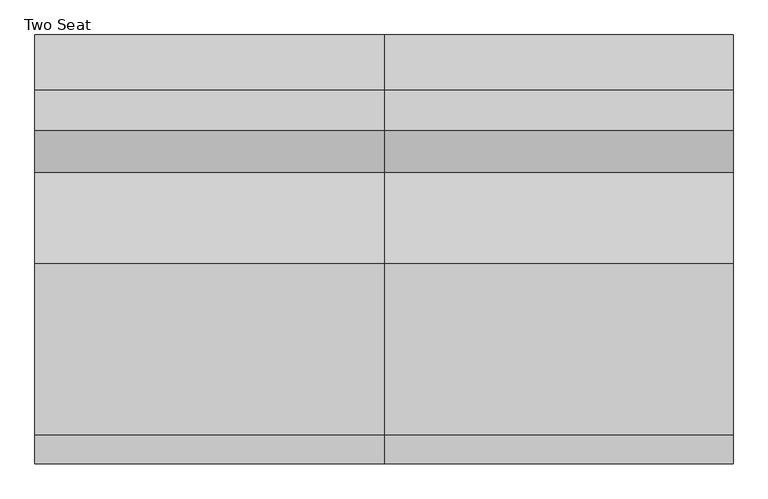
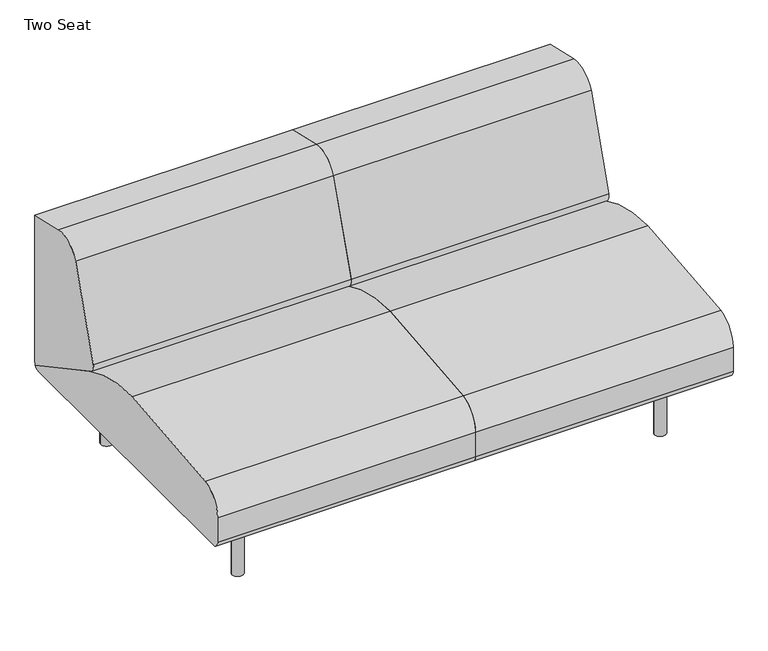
"""IFC4 building model written with IfcOpenShell, lengths in millimetres: furniture geometry, Coalesse_AM_Seating_LoungeChair_Sistema_LegBase_TwoSeat : Two Seat."""

import ifcopenshell
import ifcopenshell.guid

model = None  # the IFC model being written
_history = None  # IfcOwnerHistory: only IFC2X3 demands one
_inside = {}  # id of a spatial element -> (the spatial element, [elements in it])
_under = {}  # id of a project, library or spatial element -> (it, [spatial elements below it])
_declared = {}  # id of a project -> (the project, [libraries it declares])
_typed = {}  # id of a type object -> (the type object, [elements of that type])
_made_of = {}  # id of a material, layer set ... -> (it, [elements and type objects made of it])


def new_model(schema):
    """Start an empty IFC model of exactly this schema.

    Asked for "IFC4X3", IfcOpenShell would pick the latest addendum, in which some entities
    have other attributes; the version numbers below select the first issue.
    IFC2X3 requires an IfcOwnerHistory on every rooted entity: one is made here for all.
    """
    global model, _history
    if schema == "IFC4X3":
        model = ifcopenshell.file(schema_version=(4, 3, 0, 0))
    else:
        model = ifcopenshell.file(schema=schema)
    _inside.clear()
    _under.clear()
    _declared.clear()
    _typed.clear()
    _made_of.clear()
    _history = None
    if model.schema == "IFC2X3":
        org = make("IfcOrganization", Name="unknown")
        user = make(
            "IfcPersonAndOrganization",
            ThePerson=make("IfcPerson", FamilyName="unknown"),
            TheOrganization=org,
        )
        app = make(
            "IfcApplication",
            ApplicationDeveloper=org,
            Version="unknown",
            ApplicationFullName="unknown",
            ApplicationIdentifier="unknown",
        )
        _history = make(
            "IfcOwnerHistory",
            OwningUser=user,
            OwningApplication=app,
            ChangeAction="ADDED",
            CreationDate=0,
        )
    return model


def make(cls, **values):
    """One entity of the class cls with the attributes given. An attribute that is None is left unset."""
    return model.create_entity(
        cls, **{name: value for name, value in values.items() if value is not None}
    )


def rooted(cls, **values):
    """An entity with a GlobalId (a new one), such as an element, a storey or a relation."""
    return make(cls, GlobalId=ifcopenshell.guid.new(), OwnerHistory=_history, **values)


def si_unit(unit_type, name, prefix=None):
    """IfcSIUnit, for example si_unit("LENGTHUNIT", "METRE", prefix="MILLI")."""
    return make("IfcSIUnit", UnitType=unit_type, Prefix=prefix, Name=name)


def assignment(units):
    """IfcUnitAssignment: the units of a project."""
    return None if units is None else make("IfcUnitAssignment", Units=units)


def point(xyz):
    """IfcCartesianPoint."""
    return None if xyz is None else make("IfcCartesianPoint", Coordinates=xyz)


def direction(xyz):
    """IfcDirection."""
    return None if xyz is None else make("IfcDirection", DirectionRatios=xyz)


def frame(location, z_axis=None, x_axis=None):
    """IfcAxis2Placement3D, a coordinate frame: its origin and axes. An axis left out is left unset."""
    return make(
        "IfcAxis2Placement3D",
        Location=point(location),
        Axis=direction(z_axis),
        RefDirection=direction(x_axis),
    )


def frame_2d(location, x_axis=None):
    """IfcAxis2Placement2D, a coordinate frame in the plane: its origin and x axis."""
    return make(
        "IfcAxis2Placement2D", Location=point(location), RefDirection=direction(x_axis)
    )


def origin():
    """The frame at (0, 0, 0) with its axes left unset."""
    return frame((0.0, 0.0, 0.0))


def origin_with_axes():
    """The frame at (0, 0, 0) with the z axis (0, 0, 1) and the x axis (1, 0, 0) written out."""
    return frame((0.0, 0.0, 0.0), z_axis=(0.0, 0.0, 1.0), x_axis=(1.0, 0.0, 0.0))


def place(relative_to, where):
    """IfcLocalPlacement: puts the frame where relative to a parent placement (None: the world)."""
    return make(
        "IfcLocalPlacement", PlacementRelTo=relative_to, RelativePlacement=where
    )


def context(
    kind, dimensions, precision=None, world=None, true_north=None, identifier=None
):
    """IfcGeometricRepresentationContext, for example the 3D "Model" context."""
    return make(
        "IfcGeometricRepresentationContext",
        ContextIdentifier=identifier,
        ContextType=kind,
        CoordinateSpaceDimension=dimensions,
        Precision=precision,
        WorldCoordinateSystem=world,
        TrueNorth=true_north,
    )


def project(units=None, contexts=None):
    """IfcProject with its units and contexts."""
    return rooted(
        "IfcProject",
        Name="project",
        RepresentationContexts=contexts,
        UnitsInContext=assignment(units),
    )


def spatial(cls, under=None, at=None, **own):
    """A site, building, storey or space (cls), placed at a placement, below another one or the project."""
    s = rooted(cls, ObjectPlacement=at, **own)
    if under is not None:
        _under.setdefault(under.id(), (under, []))[1].append(s)
    return s


def polyline(points):
    """IfcPolyline through the points."""
    return make("IfcPolyline", Points=[point(p) for p in points])


def circle_curve(where, radius):
    """IfcCircle in the frame where."""
    return make("IfcCircle", Position=where, Radius=radius)


def trimmed(basis, trim1, trim2, sense, master):
    """IfcTrimmedCurve: the piece of a basis curve between two trims."""
    return make(
        "IfcTrimmedCurve",
        BasisCurve=basis,
        Trim1=trim1,
        Trim2=trim2,
        SenseAgreement=sense,
        MasterRepresentation=master,
    )


def segment(curve, same_sense, transition):
    """IfcCompositeCurveSegment."""
    return make(
        "IfcCompositeCurveSegment",
        Transition=transition,
        SameSense=same_sense,
        ParentCurve=curve,
    )


def composite_curve(segments, self_intersect=None):
    """IfcCompositeCurve: segments joined end to end."""
    return make("IfcCompositeCurve", Segments=segments, SelfIntersect=self_intersect)


def outline(outer, holes=None, kind="AREA"):
    """IfcArbitraryClosedProfileDef: a profile drawn as a closed curve; with holes, ...WithVoids."""
    if holes is None:
        return make("IfcArbitraryClosedProfileDef", ProfileType=kind, OuterCurve=outer)
    return make(
        "IfcArbitraryProfileDefWithVoids",
        ProfileType=kind,
        OuterCurve=outer,
        InnerCurves=holes,
    )


def extrude(swept, where, along, depth):
    """IfcExtrudedAreaSolid: the profile swept, set in the frame where, extruded along a direction by depth."""
    return make(
        "IfcExtrudedAreaSolid",
        SweptArea=swept,
        Position=where,
        ExtrudedDirection=direction(along),
        Depth=depth,
    )


def shape(context_of_items, identifier, shape_type, items):
    """IfcShapeRepresentation: the items that make up one representation, for example the "Body"."""
    return make(
        "IfcShapeRepresentation",
        ContextOfItems=context_of_items,
        RepresentationIdentifier=identifier,
        RepresentationType=shape_type,
        Items=items,
    )


def source(mapping_origin, context_of_items, identifier, shape_type, items):
    """IfcRepresentationMap: a shape defined once, which mapped items show again and again."""
    return make(
        "IfcRepresentationMap",
        MappingOrigin=mapping_origin,
        MappedRepresentation=shape(context_of_items, identifier, shape_type, items),
    )


def transform(
    local_origin,
    x_axis=None,
    y_axis=None,
    z_axis=None,
    scale=None,
    scale2=None,
    scale3=None,
    uniform=True,
):
    """IfcCartesianTransformationOperator3D, or its non-uniform kind. x_axis, y_axis, z_axis: its Axis1, 2, 3."""
    if uniform:
        return make(
            "IfcCartesianTransformationOperator3D",
            Axis1=direction(x_axis),
            Axis2=direction(y_axis),
            LocalOrigin=point(local_origin),
            Scale=scale,
            Axis3=direction(z_axis),
        )
    return make(
        "IfcCartesianTransformationOperator3DnonUniform",
        Axis1=direction(x_axis),
        Axis2=direction(y_axis),
        LocalOrigin=point(local_origin),
        Scale=scale,
        Axis3=direction(z_axis),
        Scale2=scale2,
        Scale3=scale3,
    )


def mapped(mapping_source, mapping_target):
    """IfcMappedItem: shows the shape of a source again, moved by a transform."""
    return make(
        "IfcMappedItem", MappingSource=mapping_source, MappingTarget=mapping_target
    )


def made_of(thing, what):
    """Note that an element or type object is made of a material, layer set ...; save() writes the relation."""
    if what is not None:
        _made_of.setdefault(what.id(), (what, []))[1].append(thing)
    return thing


def element(
    cls,
    number,
    at=None,
    inside=None,
    cuts=None,
    type_object=None,
    material=None,
    context=None,
    identifier="Body",
    shape_type=None,
    held_by="IfcProductDefinitionShape",
    body=None,
    shapes=None,
    **own,
):
    """One element of the class cls, such as IfcWall. Its Tag is "e" and its number.

    at: its placement. inside: the storey or other place that contains it. cuts: it is an
    opening in that element (IfcRelVoidsElement). A single representation is given by context,
    identifier, shape_type and body (its items); several are given by shapes. held_by: the class
    of the entity that holds the representations. save() writes the other relations.
    """
    e = rooted(cls, Tag="e%d" % number, ObjectPlacement=at, **own)
    if body is not None:
        shapes = [shape(context, identifier, shape_type, body)]
    if shapes is not None:
        e.Representation = make(held_by, Representations=shapes)
    if inside is not None:
        _inside.setdefault(inside.id(), (inside, []))[1].append(e)
    if cuts is not None:
        rooted(
            "IfcRelVoidsElement", RelatingBuildingElement=cuts, RelatedOpeningElement=e
        )
    if type_object is not None:
        _typed.setdefault(type_object.id(), (type_object, []))[1].append(e)
    return made_of(e, material)


def aggregate(whole, parts):
    """IfcRelAggregates: a whole, such as a stair, and the parts it consists of."""
    return rooted("IfcRelAggregates", RelatingObject=whole, RelatedObjects=parts)


def save(model, path):
    """Write the relations noted so far, then the file.

    IfcRelAggregates (storeys below a building ...), IfcRelContainedInSpatialStructure (elements
    in a storey), IfcRelDefinesByType, IfcRelAssociatesMaterial and IfcRelDeclares: one each for
    every whole, place, type object, material and project.
    """
    for whole, parts in _under.values():
        aggregate(whole, parts)
    for where, things in _inside.values():
        rooted(
            "IfcRelContainedInSpatialStructure",
            RelatedElements=things,
            RelatingStructure=where,
        )
    for kind, things in _typed.values():
        rooted("IfcRelDefinesByType", RelatedObjects=things, RelatingType=kind)
    for what, things in _made_of.values():
        rooted("IfcRelAssociatesMaterial", RelatedObjects=things, RelatingMaterial=what)
    for by, libraries in _declared.values():
        rooted("IfcRelDeclares", RelatingContext=by, RelatedDefinitions=libraries)
    model.write(path)


def two_seat_c4276306(model_context):
    return source(origin(), model_context, "Body", "SweptSolid", [
        extrude(outline(composite_curve([segment(trimmed(circle_curve(frame_2d((989.1765227, 335.9943389)), 6.096), [point((995.2725227, 335.9943389))], [point((983.0805227, 335.9943389))], False, "CARTESIAN"), True, "CONTINUOUS"), segment(trimmed(circle_curve(frame_2d((989.1765227, 335.9943389)), 6.096), [point((983.0805227, 335.9943389))], [point((995.2725227, 335.9943389))], False, "CARTESIAN"), True, "CONTINUOUS")], self_intersect=False)), origin_with_axes(), (0.0, 0.0, 1.0), 4.3662291),
        extrude(outline(composite_curve([segment(trimmed(circle_curve(frame_2d((989.1765227, -327.2630889)), 6.096), [point((995.2725227, -327.2630889))], [point((983.0805227, -327.2630889))], False, "CARTESIAN"), True, "CONTINUOUS"), segment(trimmed(circle_curve(frame_2d((989.1765227, -327.2630889)), 6.096), [point((983.0805227, -327.2630889))], [point((995.2725227, -327.2630889))], False, "CARTESIAN"), True, "CONTINUOUS")], self_intersect=False)), origin_with_axes(), (0.0, 0.0, 1.0), 4.3662291),
        extrude(outline(composite_curve([segment(polyline([(157.0399209, 1001.756375), (201.7356243, 1001.756375)]), True, "CONTINUOUS"), segment(trimmed(circle_curve(frame_2d((201.7356243, 998.708375)), 3.048), [point((201.7356243, 1001.756375))], [point((204.7836243, 998.708375))], False, "CARTESIAN"), True, "CONTINUOUS"), segment(polyline([(204.7836243, 998.708375), (204.7836243, 979.366199)]), True, "CONTINUOUS"), segment(trimmed(circle_curve(frame_2d((201.7356243, 979.366199)), 3.048), [point((204.7836243, 979.366199))], [point((201.7356243, 976.318199))], False, "CARTESIAN"), True, "CONTINUOUS"), segment(polyline([(201.7356243, 976.318199), (157.1249936, 976.318199)]), True, "CONTINUOUS"), segment(trimmed(circle_curve(frame_2d((157.1249936, 979.4512718)), 3.1330728), [point((157.1249936, 976.318199))], [point((153.9919209, 979.4512718))], False, "CARTESIAN"), True, "CONTINUOUS"), segment(polyline([(153.9919209, 979.4512718), (153.9919209, 998.708375)]), True, "CONTINUOUS"), segment(trimmed(circle_curve(frame_2d((157.0399209, 998.708375)), 3.048), [point((153.9919209, 998.708375))], [point((157.0399209, 1001.756375))], False, "CARTESIAN"), True, "CONTINUOUS")], self_intersect=False)), frame((0.0, 222.3519802, 0.0), z_axis=(0.0, 1.0, 0.0), x_axis=(0.0, 0.0, 1.0)), (0.0, 0.0, 1.0), 92.6273161),
        extrude(outline(composite_curve([segment(polyline([(157.0399209, 1001.756375), (201.7356243, 1001.756375)]), True, "CONTINUOUS"), segment(trimmed(circle_curve(frame_2d((201.7356243, 998.708375)), 3.048), [point((201.7356243, 1001.756375))], [point((204.7836243, 998.708375))], False, "CARTESIAN"), True, "CONTINUOUS"), segment(polyline([(204.7836243, 998.708375), (204.7836243, 979.366199)]), True, "CONTINUOUS"), segment(trimmed(circle_curve(frame_2d((201.7356243, 979.366199)), 3.048), [point((204.7836243, 979.366199))], [point((201.7356243, 976.318199))], False, "CARTESIAN"), True, "CONTINUOUS"), segment(polyline([(201.7356243, 976.318199), (157.1249936, 976.318199)]), True, "CONTINUOUS"), segment(trimmed(circle_curve(frame_2d((157.1249936, 979.4512718)), 3.1330728), [point((157.1249936, 976.318199))], [point((153.9919209, 979.4512718))], False, "CARTESIAN"), True, "CONTINUOUS"), segment(polyline([(153.9919209, 979.4512718), (153.9919209, 998.708375)]), True, "CONTINUOUS"), segment(trimmed(circle_curve(frame_2d((157.0399209, 998.708375)), 3.048), [point((153.9919209, 998.708375))], [point((157.0399209, 1001.756375))], False, "CARTESIAN"), True, "CONTINUOUS")], self_intersect=False)), frame((0.0, -314.9792963, 0.0), z_axis=(0.0, 1.0, 0.0), x_axis=(0.0, 0.0, 1.0)), (0.0, 0.0, 1.0), 92.6273161),
        extrude(outline(composite_curve([segment(trimmed(circle_curve(frame_2d((176.3356606, 966.5259944)), 3.048), [point((179.3836606, 966.5259944))], [point((176.3356606, 963.4779944))], False, "CARTESIAN"), True, "CONTINUOUS"), segment(polyline([(176.3356606, 963.4779944), (157.0399209, 963.4779944)]), True, "CONTINUOUS"), segment(trimmed(circle_curve(frame_2d((157.0399209, 966.5259944)), 3.048), [point((157.0399209, 963.4779944))], [point((153.9919209, 966.5259944))], False, "CARTESIAN"), True, "CONTINUOUS"), segment(polyline([(153.9919209, 966.5259944), (153.9919209, 1011.2135501)]), True, "CONTINUOUS"), segment(trimmed(circle_curve(frame_2d((157.056462, 1011.2135501)), 3.0645412), [point((153.9919209, 1011.2135501))], [point((157.056462, 1014.2780913))], False, "CARTESIAN"), True, "CONTINUOUS"), segment(polyline([(157.056462, 1014.2780913), (176.3356606, 1014.2780913)]), True, "CONTINUOUS"), segment(trimmed(circle_curve(frame_2d((176.3356606, 1011.2300913)), 3.048), [point((176.3356606, 1014.2780913))], [point((179.3836606, 1011.2300913))], False, "CARTESIAN"), True, "CONTINUOUS"), segment(polyline([(179.3836606, 1011.2300913), (179.3836606, 966.5259944)]), True, "CONTINUOUS")], self_intersect=False)), frame((0.0, -222.3519802, 0.0), z_axis=(0.0, 1.0, 0.0), x_axis=(0.0, 0.0, 1.0)), (0.0, 0.0, 1.0), 444.7039604),
        extrude(outline(composite_curve([segment(trimmed(circle_curve(frame_2d((989.1765227, 332.3095741)), 16.51), [point((1005.6865227, 332.3095741))], [point((972.6665227, 332.3095741))], False, "CARTESIAN"), True, "CONTINUOUS"), segment(trimmed(circle_curve(frame_2d((989.1765227, 332.3095741)), 16.51), [point((972.6665227, 332.3095741))], [point((1005.6865227, 332.3095741))], False, "CARTESIAN"), True, "CONTINUOUS")], self_intersect=False)), frame((0.0, 0.0, 4.3662291), z_axis=(0.0, 0.0, 1.0), x_axis=(1.0, 0.0, 0.0)), (0.0, 0.0, 1.0), 200.1037709),
        extrude(outline(composite_curve([segment(trimmed(circle_curve(frame_2d((988.7796477, -327.5470741)), 16.51), [point((1005.2896477, -327.5470741))], [point((972.2696477, -327.5470741))], False, "CARTESIAN"), True, "CONTINUOUS"), segment(trimmed(circle_curve(frame_2d((988.7796477, -327.5470741)), 16.51), [point((972.2696477, -327.5470741))], [point((1005.2896477, -327.5470741))], False, "CARTESIAN"), True, "CONTINUOUS")], self_intersect=False)), frame((0.0, 0.0, 4.3662291), z_axis=(0.0, 0.0, 1.0), x_axis=(1.0, 0.0, 0.0)), (0.0, 0.0, 1.0), 200.1037709),
        extrude(outline(composite_curve([segment(polyline([(459.4795619, 673.6041325), (459.4795619, 228.1929806)]), True, "CONTINUOUS"), segment(trimmed(circle_curve(frame_2d((191.495971, 228.1929806)), 267.983591), [point((459.4795619, 228.1929806))], [point((458.9860775, 211.937276))], False, "CARTESIAN"), True, "CONTINUOUS"), segment(polyline([(458.9860775, 211.937276), (177.4990556, 364.1028799)]), True, "CONTINUOUS"), segment(trimmed(circle_curve(frame_2d((189.5778307, 386.4470781)), 25.4), [point((177.4990556, 364.1028799))], [point((164.9600055, 392.7018911))], False, "CARTESIAN"), True, "CONTINUOUS"), segment(trimmed(circle_curve(frame_2d((1918.112812, -52.7331923)), 1808.8552115), [point((164.9600055, 392.7018911))], [point((254.1018253, 656.5090883))], False, "CARTESIAN"), True, "CONTINUOUS"), segment(trimmed(circle_curve(frame_2d((324.2001043, 626.6314831)), 76.2), [point((254.1018253, 656.5090883))], [point((341.3413746, 700.8784821))], False, "CARTESIAN"), True, "CONTINUOUS"), segment(polyline([(341.3413746, 700.8784821), (459.4795619, 673.6041325)]), True, "CONTINUOUS")], self_intersect=False)), frame((-374.8034773, 0.0, 0.0), z_axis=(1.0, 0.0, 0.0), x_axis=(0.0, 1.0, 0.0)), (0.0, 0.0, 1.0), 749.3),
        extrude(outline(composite_curve([segment(trimmed(circle_curve(frame_2d((-438.9184381, 226.822)), 22.352), [point((-438.9184381, 204.47))], [point((-461.2704381, 226.822))], False, "CARTESIAN"), True, "CONTINUOUS"), segment(polyline([(-461.2704381, 226.822), (-461.2704381, 301.4421993)]), True, "CONTINUOUS"), segment(trimmed(circle_curve(frame_2d((-385.0704381, 301.4421993)), 76.2), [point((-461.2704381, 301.4421993))], [point((-398.9277015, 376.3716077))], False, "CARTESIAN"), True, "CONTINUOUS"), segment(trimmed(circle_curve(frame_2d((2.2103559, -1792.6740646)), 2205.8265729), [point((-398.9277015, 376.3716077))], [point((-31.1968175, 412.8995185))], False, "CARTESIAN"), True, "CONTINUOUS"), segment(trimmed(circle_curve(frame_2d((-24.5128424, -28.3829182)), 441.333054), [point((-31.1968175, 412.8995185))], [point((184.5757008, 360.2774035))], False, "CARTESIAN"), True, "CONTINUOUS"), segment(polyline([(184.5757008, 360.2774035), (458.9860775, 211.937276)]), True, "CONTINUOUS"), segment(trimmed(circle_curve(frame_2d((442.3266309, 226.7871991)), 22.3171991), [point((458.9860775, 211.937276))], [point((442.3266309, 204.47))], False, "CARTESIAN"), True, "CONTINUOUS"), segment(polyline([(442.3266309, 204.47), (-438.9184381, 204.47)]), True, "CONTINUOUS")], self_intersect=False)), frame((-374.8034773, 0.0, 0.0), z_axis=(1.0, 0.0, 0.0), x_axis=(0.0, 1.0, 0.0)), (0.0, 0.0, 1.0), 749.3),
        extrude(outline(composite_curve([segment(polyline([(459.4795619, 673.6041325), (459.4795619, 228.1929806)]), True, "CONTINUOUS"), segment(trimmed(circle_curve(frame_2d((191.495971, 228.1929806)), 267.983591), [point((459.4795619, 228.1929806))], [point((458.9860775, 211.937276))], False, "CARTESIAN"), True, "CONTINUOUS"), segment(polyline([(458.9860775, 211.937276), (177.4990556, 364.1028799)]), True, "CONTINUOUS"), segment(trimmed(circle_curve(frame_2d((189.5778307, 386.4470781)), 25.4), [point((177.4990556, 364.1028799))], [point((164.9600055, 392.7018911))], False, "CARTESIAN"), True, "CONTINUOUS"), segment(trimmed(circle_curve(frame_2d((1918.112812, -52.7331923)), 1808.8552115), [point((164.9600055, 392.7018911))], [point((254.1018253, 656.5090883))], False, "CARTESIAN"), True, "CONTINUOUS"), segment(trimmed(circle_curve(frame_2d((324.2001043, 626.6314831)), 76.2), [point((254.1018253, 656.5090883))], [point((341.3413746, 700.8784821))], False, "CARTESIAN"), True, "CONTINUOUS"), segment(polyline([(341.3413746, 700.8784821), (459.4795619, 673.6041325)]), True, "CONTINUOUS")], self_intersect=False)), frame((374.4965227, 0.0, 0.0), z_axis=(1.0, 0.0, 0.0), x_axis=(0.0, 1.0, 0.0)), (0.0, 0.0, 1.0), 749.3),
        extrude(outline(composite_curve([segment(trimmed(circle_curve(frame_2d((-438.9184381, 226.822)), 22.352), [point((-438.9184381, 204.47))], [point((-461.2704381, 226.822))], False, "CARTESIAN"), True, "CONTINUOUS"), segment(polyline([(-461.2704381, 226.822), (-461.2704381, 301.4421993)]), True, "CONTINUOUS"), segment(trimmed(circle_curve(frame_2d((-385.0704381, 301.4421993)), 76.2), [point((-461.2704381, 301.4421993))], [point((-398.9277015, 376.3716077))], False, "CARTESIAN"), True, "CONTINUOUS"), segment(trimmed(circle_curve(frame_2d((2.2103559, -1792.6740646)), 2205.8265729), [point((-398.9277015, 376.3716077))], [point((-31.1968175, 412.8995185))], False, "CARTESIAN"), True, "CONTINUOUS"), segment(trimmed(circle_curve(frame_2d((-24.5128424, -28.3829182)), 441.333054), [point((-31.1968175, 412.8995185))], [point((184.5757008, 360.2774035))], False, "CARTESIAN"), True, "CONTINUOUS"), segment(polyline([(184.5757008, 360.2774035), (458.9860775, 211.937276)]), True, "CONTINUOUS"), segment(trimmed(circle_curve(frame_2d((442.3266309, 226.7871991)), 22.3171991), [point((458.9860775, 211.937276))], [point((442.3266309, 204.47))], False, "CARTESIAN"), True, "CONTINUOUS"), segment(polyline([(442.3266309, 204.47), (-438.9184381, 204.47)]), True, "CONTINUOUS")], self_intersect=False)), frame((374.4965227, 0.0, 0.0), z_axis=(1.0, 0.0, 0.0), x_axis=(0.0, 1.0, 0.0)), (0.0, 0.0, 1.0), 749.3),
        extrude(outline(composite_curve([segment(trimmed(circle_curve(frame_2d((-240.1834773, 335.9943389)), 6.096), [point((-246.2794773, 335.9943389))], [point((-234.0874773, 335.9943389))], False, "CARTESIAN"), True, "CONTINUOUS"), segment(trimmed(circle_curve(frame_2d((-240.1834773, 335.9943389)), 6.096), [point((-234.0874773, 335.9943389))], [point((-246.2794773, 335.9943389))], False, "CARTESIAN"), True, "CONTINUOUS")], self_intersect=False)), origin_with_axes(), (0.0, 0.0, 1.0), 4.3662291),
        extrude(outline(composite_curve([segment(trimmed(circle_curve(frame_2d((-240.1834773, -327.2630889)), 6.096), [point((-246.2794773, -327.2630889))], [point((-234.0874773, -327.2630889))], False, "CARTESIAN"), True, "CONTINUOUS"), segment(trimmed(circle_curve(frame_2d((-240.1834773, -327.2630889)), 6.096), [point((-234.0874773, -327.2630889))], [point((-246.2794773, -327.2630889))], False, "CARTESIAN"), True, "CONTINUOUS")], self_intersect=False)), origin_with_axes(), (0.0, 0.0, 1.0), 4.3662291),
        extrude(outline(composite_curve([segment(trimmed(circle_curve(frame_2d((157.0399209, -249.7153296)), 3.048), [point((157.0399209, -252.7633296))], [point((153.9919209, -249.7153296))], False, "CARTESIAN"), True, "CONTINUOUS"), segment(polyline([(153.9919209, -249.7153296), (153.9919209, -230.4582264)]), True, "CONTINUOUS"), segment(trimmed(circle_curve(frame_2d((157.1249936, -230.4582264)), 3.1330728), [point((153.9919209, -230.4582264))], [point((157.1249936, -227.3251537))], False, "CARTESIAN"), True, "CONTINUOUS"), segment(polyline([(157.1249936, -227.3251537), (201.7356243, -227.3251537)]), True, "CONTINUOUS"), segment(trimmed(circle_curve(frame_2d((201.7356243, -230.3731537)), 3.048), [point((201.7356243, -227.3251537))], [point((204.7836243, -230.3731537))], False, "CARTESIAN"), True, "CONTINUOUS"), segment(polyline([(204.7836243, -230.3731537), (204.7836243, -249.7153296)]), True, "CONTINUOUS"), segment(trimmed(circle_curve(frame_2d((201.7356243, -249.7153296)), 3.048), [point((204.7836243, -249.7153296))], [point((201.7356243, -252.7633296))], False, "CARTESIAN"), True, "CONTINUOUS"), segment(polyline([(201.7356243, -252.7633296), (157.0399209, -252.7633296)]), True, "CONTINUOUS")], self_intersect=False)), frame((0.0, 222.3519802, 0.0), z_axis=(0.0, 1.0, 0.0), x_axis=(0.0, 0.0, 1.0)), (0.0, 0.0, 1.0), 92.6273161),
        extrude(outline(composite_curve([segment(trimmed(circle_curve(frame_2d((157.0399209, -249.7153296)), 3.048), [point((157.0399209, -252.7633296))], [point((153.9919209, -249.7153296))], False, "CARTESIAN"), True, "CONTINUOUS"), segment(polyline([(153.9919209, -249.7153296), (153.9919209, -230.4582264)]), True, "CONTINUOUS"), segment(trimmed(circle_curve(frame_2d((157.1249936, -230.4582264)), 3.1330728), [point((153.9919209, -230.4582264))], [point((157.1249936, -227.3251537))], False, "CARTESIAN"), True, "CONTINUOUS"), segment(polyline([(157.1249936, -227.3251537), (201.7356243, -227.3251537)]), True, "CONTINUOUS"), segment(trimmed(circle_curve(frame_2d((201.7356243, -230.3731537)), 3.048), [point((201.7356243, -227.3251537))], [point((204.7836243, -230.3731537))], False, "CARTESIAN"), True, "CONTINUOUS"), segment(polyline([(204.7836243, -230.3731537), (204.7836243, -249.7153296)]), True, "CONTINUOUS"), segment(trimmed(circle_curve(frame_2d((201.7356243, -249.7153296)), 3.048), [point((204.7836243, -249.7153296))], [point((201.7356243, -252.7633296))], False, "CARTESIAN"), True, "CONTINUOUS"), segment(polyline([(201.7356243, -252.7633296), (157.0399209, -252.7633296)]), True, "CONTINUOUS")], self_intersect=False)), frame((0.0, -314.9792963, 0.0), z_axis=(0.0, 1.0, 0.0), x_axis=(0.0, 0.0, 1.0)), (0.0, 0.0, 1.0), 92.6273161),
        extrude(outline(composite_curve([segment(polyline([(179.3836606, -217.532949), (179.3836606, -262.2370459)]), True, "CONTINUOUS"), segment(trimmed(circle_curve(frame_2d((176.3356606, -262.2370459)), 3.048), [point((179.3836606, -262.2370459))], [point((176.3356606, -265.2850459))], False, "CARTESIAN"), True, "CONTINUOUS"), segment(polyline([(176.3356606, -265.2850459), (157.056462, -265.2850459)]), True, "CONTINUOUS"), segment(trimmed(circle_curve(frame_2d((157.056462, -262.2205047)), 3.0645412), [point((157.056462, -265.2850459))], [point((153.9919209, -262.2205047))], False, "CARTESIAN"), True, "CONTINUOUS"), segment(polyline([(153.9919209, -262.2205047), (153.9919209, -217.532949)]), True, "CONTINUOUS"), segment(trimmed(circle_curve(frame_2d((157.0399209, -217.532949)), 3.048), [point((153.9919209, -217.532949))], [point((157.0399209, -214.484949))], False, "CARTESIAN"), True, "CONTINUOUS"), segment(polyline([(157.0399209, -214.484949), (176.3356606, -214.484949)]), True, "CONTINUOUS"), segment(trimmed(circle_curve(frame_2d((176.3356606, -217.532949)), 3.048), [point((176.3356606, -214.484949))], [point((179.3836606, -217.532949))], False, "CARTESIAN"), True, "CONTINUOUS")], self_intersect=False)), frame((0.0, -222.3519802, 0.0), z_axis=(0.0, 1.0, 0.0), x_axis=(0.0, 0.0, 1.0)), (0.0, 0.0, 1.0), 444.7039604),
        extrude(outline(composite_curve([segment(trimmed(circle_curve(frame_2d((-240.1834773, 332.3095741)), 16.51), [point((-256.6934773, 332.3095741))], [point((-223.6734773, 332.3095741))], False, "CARTESIAN"), True, "CONTINUOUS"), segment(trimmed(circle_curve(frame_2d((-240.1834773, 332.3095741)), 16.51), [point((-223.6734773, 332.3095741))], [point((-256.6934773, 332.3095741))], False, "CARTESIAN"), True, "CONTINUOUS")], self_intersect=False)), frame((0.0, 0.0, 4.3662291), z_axis=(0.0, 0.0, 1.0), x_axis=(1.0, 0.0, 0.0)), (0.0, 0.0, 1.0), 200.1037709),
        extrude(outline(composite_curve([segment(trimmed(circle_curve(frame_2d((-239.7866023, -327.5470741)), 16.51), [point((-256.2966023, -327.5470741))], [point((-223.2766023, -327.5470741))], False, "CARTESIAN"), True, "CONTINUOUS"), segment(trimmed(circle_curve(frame_2d((-239.7866023, -327.5470741)), 16.51), [point((-223.2766023, -327.5470741))], [point((-256.2966023, -327.5470741))], False, "CARTESIAN"), True, "CONTINUOUS")], self_intersect=False)), frame((0.0, 0.0, 4.3662291), z_axis=(0.0, 0.0, 1.0), x_axis=(1.0, 0.0, 0.0)), (0.0, 0.0, 1.0), 200.1037709),
    ])


if __name__ == "__main__":
    model = new_model("IFC4")
    model_context = context("Model", 3, world=origin())
    ifc_project = project(units=[si_unit("LENGTHUNIT", "METRE", prefix="MILLI")], contexts=[model_context])
    site = spatial("IfcSite", under=ifc_project)
    building = spatial("IfcBuilding", under=site)
    placement = place(None, origin())
    two_seat_shape = two_seat_c4276306(model_context)
    element("IfcFurniture", 1, ObjectType="Coalesse_AM_Seating_LoungeChair_Sistema_LegBase_TwoSeat : Two Seat", at=placement, inside=building, context=model_context, shape_type="MappedRepresentation", body=[
        mapped(two_seat_shape, transform((0.0, 0.0, 0.0), x_axis=(1.0, 0.0, 0.0), y_axis=(0.0, 1.0, 0.0), z_axis=(0.0, 0.0, 1.0))),
    ])
    save(model, "model.ifc")
